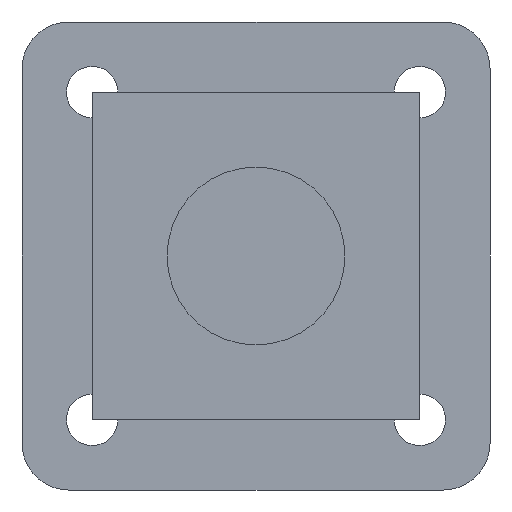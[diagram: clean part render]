
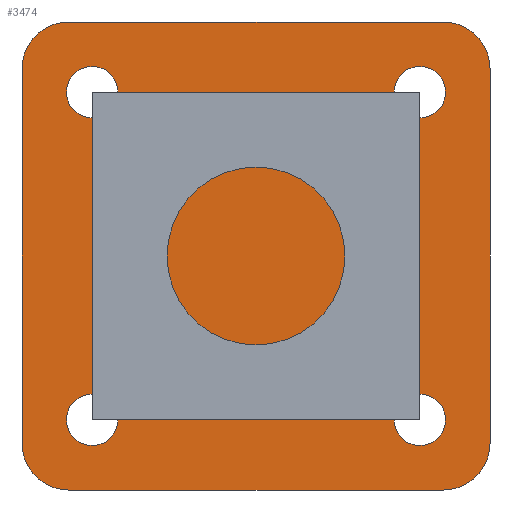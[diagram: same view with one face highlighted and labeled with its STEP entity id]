
A CAD part, front view. The second image highlights one B-rep face of the part: STEP entity #3474.
In plain terms, the highlighted planar face has unit normal (0, -1, 0).
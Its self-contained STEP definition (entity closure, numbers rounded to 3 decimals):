
#5 = DIRECTION ( 'NONE',  ( 0., -1., 0. ) ) ;
#160 = VERTEX_POINT ( 'NONE', #4308 ) ;
#164 = VERTEX_POINT ( 'NONE', #1010 ) ;
#180 = DIRECTION ( 'NONE',  ( 0., -1., 0. ) ) ;
#209 = EDGE_CURVE ( 'NONE', #1479, #4643, #1286, .T. ) ;
#225 = EDGE_LOOP ( 'NONE', ( #1449, #546 ) ) ;
#270 = CARTESIAN_POINT ( 'NONE',  ( -35., 0., 29.5 ) ) ;
#279 = CARTESIAN_POINT ( 'NONE',  ( -40., 0., -40. ) ) ;
#386 = CARTESIAN_POINT ( 'NONE',  ( 40., 0., -40. ) ) ;
#407 = DIRECTION ( 'NONE',  ( -1., 0., 0. ) ) ;
#424 = EDGE_CURVE ( 'NONE', #1702, #164, #1909, .T. ) ;
#464 = EDGE_CURVE ( 'NONE', #1086, #4467, #1167, .T. ) ;
#483 = DIRECTION ( 'NONE',  ( 0., 0., 1. ) ) ;
#502 = VERTEX_POINT ( 'NONE', #690 ) ;
#515 = CARTESIAN_POINT ( 'NONE',  ( -40., 0., -50. ) ) ;
#516 = CARTESIAN_POINT ( 'NONE',  ( -50., 0., -50. ) ) ;
#546 = ORIENTED_EDGE ( 'NONE', *, *, #4421, .T. ) ;
#568 = CIRCLE ( 'NONE', #2682, 5.5 ) ;
#587 = AXIS2_PLACEMENT_3D ( 'NONE', #1359, #3926, #616 ) ;
#601 = EDGE_CURVE ( 'NONE', #1817, #3948, #3537, .T. ) ;
#604 = ORIENTED_EDGE ( 'NONE', *, *, #666, .F. ) ;
#616 = DIRECTION ( 'NONE',  ( 0., 0., 1. ) ) ;
#638 = CARTESIAN_POINT ( 'NONE',  ( 35., 0., 35. ) ) ;
#666 = EDGE_CURVE ( 'NONE', #1086, #3978, #1738, .T. ) ;
#690 = CARTESIAN_POINT ( 'NONE',  ( 50., 0., 40. ) ) ;
#744 = CIRCLE ( 'NONE', #1179, 10. ) ;
#757 = VECTOR ( 'NONE', #483, 1000. ) ;
#821 = DIRECTION ( 'NONE',  ( 1., 0., 0. ) ) ;
#856 = DIRECTION ( 'NONE',  ( 0., 0., -1. ) ) ;
#875 = CARTESIAN_POINT ( 'NONE',  ( 50., 0., -40. ) ) ;
#878 = VECTOR ( 'NONE', #821, 1000. ) ;
#890 = ORIENTED_EDGE ( 'NONE', *, *, #464, .T. ) ;
#943 = ORIENTED_EDGE ( 'NONE', *, *, #4378, .T. ) ;
#1010 = CARTESIAN_POINT ( 'NONE',  ( -35., 0., -40.5 ) ) ;
#1055 = EDGE_LOOP ( 'NONE', ( #1156, #2599 ) ) ;
#1086 = VERTEX_POINT ( 'NONE', #4688 ) ;
#1128 = VERTEX_POINT ( 'NONE', #270 ) ;
#1130 = EDGE_LOOP ( 'NONE', ( #1937, #4381 ) ) ;
#1142 = FACE_BOUND ( 'NONE', #3378, .T. ) ;
#1156 = ORIENTED_EDGE ( 'NONE', *, *, #424, .T. ) ;
#1167 = CIRCLE ( 'NONE', #4478, 10. ) ;
#1179 = AXIS2_PLACEMENT_3D ( 'NONE', #4681, #180, #1655 ) ;
#1187 = AXIS2_PLACEMENT_3D ( 'NONE', #4034, #4405, #2151 ) ;
#1204 = DIRECTION ( 'NONE',  ( 0., 0., 1. ) ) ;
#1216 = ORIENTED_EDGE ( 'NONE', *, *, #2297, .F. ) ;
#1286 = CIRCLE ( 'NONE', #4568, 5.5 ) ;
#1347 = AXIS2_PLACEMENT_3D ( 'NONE', #3451, #2353, #2377 ) ;
#1359 = CARTESIAN_POINT ( 'NONE',  ( 0., 0., 0. ) ) ;
#1399 = EDGE_CURVE ( 'NONE', #502, #3948, #4627, .T. ) ;
#1449 = ORIENTED_EDGE ( 'NONE', *, *, #1468, .T. ) ;
#1468 = EDGE_CURVE ( 'NONE', #3958, #1128, #3662, .T. ) ;
#1472 = CARTESIAN_POINT ( 'NONE',  ( 40., 0., 40. ) ) ;
#1479 = VERTEX_POINT ( 'NONE', #3821 ) ;
#1511 = CIRCLE ( 'NONE', #3944, 5.5 ) ;
#1527 = DIRECTION ( 'NONE',  ( 0., -1., 0. ) ) ;
#1534 = DIRECTION ( 'NONE',  ( 0., 1., 0. ) ) ;
#1564 = CARTESIAN_POINT ( 'NONE',  ( -50., 0., -50. ) ) ;
#1566 = ORIENTED_EDGE ( 'NONE', *, *, #2142, .F. ) ;
#1608 = DIRECTION ( 'NONE',  ( 0., 0., 1. ) ) ;
#1626 = AXIS2_PLACEMENT_3D ( 'NONE', #386, #1527, #3370 ) ;
#1655 = DIRECTION ( 'NONE',  ( 0., 0., 1. ) ) ;
#1666 = VERTEX_POINT ( 'NONE', #875 ) ;
#1677 = AXIS2_PLACEMENT_3D ( 'NONE', #1472, #5, #4427 ) ;
#1702 = VERTEX_POINT ( 'NONE', #2056 ) ;
#1738 = LINE ( 'NONE', #516, #757 ) ;
#1781 = CARTESIAN_POINT ( 'NONE',  ( 40., 0., 50. ) ) ;
#1795 = EDGE_CURVE ( 'NONE', #164, #1702, #2607, .T. ) ;
#1817 = VERTEX_POINT ( 'NONE', #3544 ) ;
#1909 = CIRCLE ( 'NONE', #1187, 5.5 ) ;
#1916 = CIRCLE ( 'NONE', #1626, 10. ) ;
#1937 = ORIENTED_EDGE ( 'NONE', *, *, #209, .T. ) ;
#2054 = EDGE_CURVE ( 'NONE', #2205, #1666, #1916, .T. ) ;
#2056 = CARTESIAN_POINT ( 'NONE',  ( -35., 0., -29.5 ) ) ;
#2111 = DIRECTION ( 'NONE',  ( 0., 1., 0. ) ) ;
#2117 = DIRECTION ( 'NONE',  ( 0., 1., 0. ) ) ;
#2142 = EDGE_CURVE ( 'NONE', #2205, #4467, #3483, .T. ) ;
#2151 = DIRECTION ( 'NONE',  ( 0., 0., 1. ) ) ;
#2168 = DIRECTION ( 'NONE',  ( 0., -1., 0. ) ) ;
#2181 = CARTESIAN_POINT ( 'NONE',  ( -50., 0., 40. ) ) ;
#2205 = VERTEX_POINT ( 'NONE', #4475 ) ;
#2233 = EDGE_CURVE ( 'NONE', #4643, #1479, #1511, .T. ) ;
#2297 = EDGE_CURVE ( 'NONE', #502, #1666, #4287, .T. ) ;
#2300 = CARTESIAN_POINT ( 'NONE',  ( -35., 0., 35. ) ) ;
#2353 = DIRECTION ( 'NONE',  ( 0., 1., 0. ) ) ;
#2370 = ORIENTED_EDGE ( 'NONE', *, *, #2054, .T. ) ;
#2377 = DIRECTION ( 'NONE',  ( 0., 0., 1. ) ) ;
#2455 = EDGE_CURVE ( 'NONE', #160, #3344, #3523, .T. ) ;
#2517 = CARTESIAN_POINT ( 'NONE',  ( 35., 0., -35. ) ) ;
#2599 = ORIENTED_EDGE ( 'NONE', *, *, #1795, .T. ) ;
#2607 = CIRCLE ( 'NONE', #3733, 5.5 ) ;
#2626 = EDGE_CURVE ( 'NONE', #3344, #160, #568, .T. ) ;
#2682 = AXIS2_PLACEMENT_3D ( 'NONE', #638, #2111, #4684 ) ;
#2775 = AXIS2_PLACEMENT_3D ( 'NONE', #3554, #3542, #3890 ) ;
#2781 = CARTESIAN_POINT ( 'NONE',  ( 35., 0., 40.5 ) ) ;
#2811 = FACE_BOUND ( 'NONE', #1130, .T. ) ;
#2823 = DIRECTION ( 'NONE',  ( 0., 0., 1. ) ) ;
#3057 = AXIS2_PLACEMENT_3D ( 'NONE', #2300, #1534, #1204 ) ;
#3222 = EDGE_LOOP ( 'NONE', ( #1216, #4527, #4731, #943, #604, #890, #1566, #2370 ) ) ;
#3246 = VECTOR ( 'NONE', #407, 1000. ) ;
#3308 = VECTOR ( 'NONE', #856, 1000. ) ;
#3344 = VERTEX_POINT ( 'NONE', #2781 ) ;
#3370 = DIRECTION ( 'NONE',  ( 0., 0., 1. ) ) ;
#3378 = EDGE_LOOP ( 'NONE', ( #4434, #3645 ) ) ;
#3431 = CARTESIAN_POINT ( 'NONE',  ( -50., 0., 50. ) ) ;
#3451 = CARTESIAN_POINT ( 'NONE',  ( -35., 0., 35. ) ) ;
#3474 = ADVANCED_FACE ( 'NONE', ( #4768, #1142, #2811, #4080, #4201 ), #3565, .F. ) ;
#3483 = LINE ( 'NONE', #1564, #3246 ) ;
#3492 = DIRECTION ( 'NONE',  ( 0., 0., 1. ) ) ;
#3523 = CIRCLE ( 'NONE', #2775, 5.5 ) ;
#3537 = LINE ( 'NONE', #3431, #878 ) ;
#3542 = DIRECTION ( 'NONE',  ( 0., 1., 0. ) ) ;
#3544 = CARTESIAN_POINT ( 'NONE',  ( -40., 0., 50. ) ) ;
#3554 = CARTESIAN_POINT ( 'NONE',  ( 35., 0., 35. ) ) ;
#3565 = PLANE ( 'NONE',  #587 ) ;
#3645 = ORIENTED_EDGE ( 'NONE', *, *, #2455, .T. ) ;
#3662 = CIRCLE ( 'NONE', #1347, 5.5 ) ;
#3733 = AXIS2_PLACEMENT_3D ( 'NONE', #4279, #4654, #3492 ) ;
#3775 = CARTESIAN_POINT ( 'NONE',  ( 50., 0., -50. ) ) ;
#3806 = CARTESIAN_POINT ( 'NONE',  ( 35., 0., -35. ) ) ;
#3821 = CARTESIAN_POINT ( 'NONE',  ( 35., 0., -29.5 ) ) ;
#3890 = DIRECTION ( 'NONE',  ( 0., 0., 1. ) ) ;
#3926 = DIRECTION ( 'NONE',  ( 0., 1., 0. ) ) ;
#3944 = AXIS2_PLACEMENT_3D ( 'NONE', #3806, #4176, #1608 ) ;
#3948 = VERTEX_POINT ( 'NONE', #1781 ) ;
#3958 = VERTEX_POINT ( 'NONE', #3976 ) ;
#3966 = CARTESIAN_POINT ( 'NONE',  ( 35., 0., -40.5 ) ) ;
#3976 = CARTESIAN_POINT ( 'NONE',  ( -35., 0., 40.5 ) ) ;
#3978 = VERTEX_POINT ( 'NONE', #2181 ) ;
#4034 = CARTESIAN_POINT ( 'NONE',  ( -35., 0., -35. ) ) ;
#4080 = FACE_BOUND ( 'NONE', #1055, .T. ) ;
#4176 = DIRECTION ( 'NONE',  ( 0., 1., 0. ) ) ;
#4201 = FACE_OUTER_BOUND ( 'NONE', #3222, .T. ) ;
#4271 = CIRCLE ( 'NONE', #3057, 5.5 ) ;
#4279 = CARTESIAN_POINT ( 'NONE',  ( -35., 0., -35. ) ) ;
#4287 = LINE ( 'NONE', #3775, #3308 ) ;
#4308 = CARTESIAN_POINT ( 'NONE',  ( 35., 0., 29.5 ) ) ;
#4378 = EDGE_CURVE ( 'NONE', #1817, #3978, #744, .T. ) ;
#4381 = ORIENTED_EDGE ( 'NONE', *, *, #2233, .T. ) ;
#4405 = DIRECTION ( 'NONE',  ( 0., 1., 0. ) ) ;
#4421 = EDGE_CURVE ( 'NONE', #1128, #3958, #4271, .T. ) ;
#4427 = DIRECTION ( 'NONE',  ( 0., 0., 1. ) ) ;
#4434 = ORIENTED_EDGE ( 'NONE', *, *, #2626, .T. ) ;
#4467 = VERTEX_POINT ( 'NONE', #515 ) ;
#4475 = CARTESIAN_POINT ( 'NONE',  ( 40., 0., -50. ) ) ;
#4478 = AXIS2_PLACEMENT_3D ( 'NONE', #279, #2168, #4734 ) ;
#4527 = ORIENTED_EDGE ( 'NONE', *, *, #1399, .T. ) ;
#4568 = AXIS2_PLACEMENT_3D ( 'NONE', #2517, #2117, #2823 ) ;
#4627 = CIRCLE ( 'NONE', #1677, 10. ) ;
#4643 = VERTEX_POINT ( 'NONE', #3966 ) ;
#4654 = DIRECTION ( 'NONE',  ( 0., 1., 0. ) ) ;
#4681 = CARTESIAN_POINT ( 'NONE',  ( -40., 0., 40. ) ) ;
#4684 = DIRECTION ( 'NONE',  ( 0., 0., 1. ) ) ;
#4688 = CARTESIAN_POINT ( 'NONE',  ( -50., 0., -40. ) ) ;
#4731 = ORIENTED_EDGE ( 'NONE', *, *, #601, .F. ) ;
#4734 = DIRECTION ( 'NONE',  ( 0., 0., 1. ) ) ;
#4768 = FACE_BOUND ( 'NONE', #225, .T. ) ;
